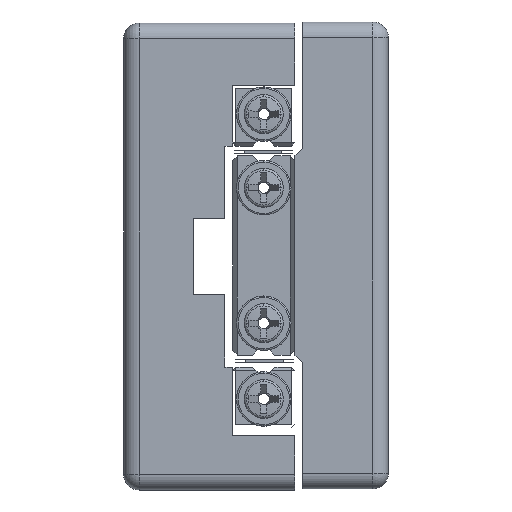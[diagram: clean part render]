
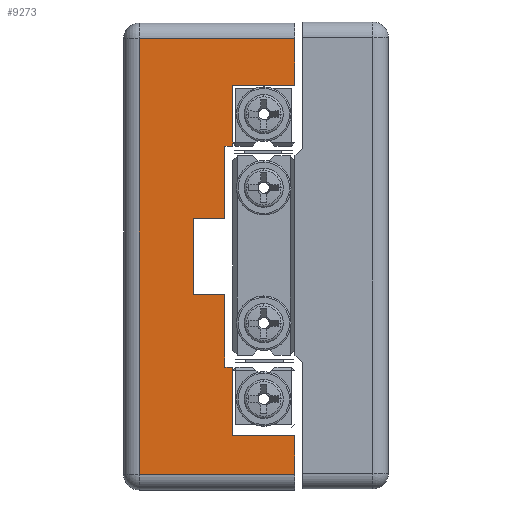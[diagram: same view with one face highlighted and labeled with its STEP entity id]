
A CAD part, left-side view. The second image highlights one B-rep face of the part: STEP entity #9273.
In plain terms, the highlighted planar face has unit normal (-1, 0, 0).
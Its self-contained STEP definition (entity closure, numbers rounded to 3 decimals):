
#3351 = EDGE_LOOP ( 'NONE', ( #6124, #5982, #21575, #21554, #6179, #6188, #6231, #21497, #6165, #21579, #21520, #6147, #6041, #5962, #6016, #21583 ) ) ;
#3989 = CARTESIAN_POINT ( 'NONE',  ( -12.659, 4.318, 2.38 ) ) ;
#4023 = CARTESIAN_POINT ( 'NONE',  ( -12.659, -2.182, -14.07 ) ) ;
#4149 = CARTESIAN_POINT ( 'NONE',  ( -12.659, 1.818, -7.17 ) ) ;
#4150 = CARTESIAN_POINT ( 'NONE',  ( -12.659, 1.818, 10.93 ) ) ;
#4154 = CARTESIAN_POINT ( 'NONE',  ( -12.659, -2.182, -11.57 ) ) ;
#4183 = CARTESIAN_POINT ( 'NONE',  ( -12.659, 2.318, 7.03 ) ) ;
#4203 = CARTESIAN_POINT ( 'NONE',  ( -12.659, -2.182, 13.93 ) ) ;
#4260 = CARTESIAN_POINT ( 'NONE',  ( -12.659, 7.818, -14.07 ) ) ;
#4275 = CARTESIAN_POINT ( 'NONE',  ( -12.659, 2.318, -7.17 ) ) ;
#4277 = CARTESIAN_POINT ( 'NONE',  ( -12.659, 2.318, 2.38 ) ) ;
#4356 = CARTESIAN_POINT ( 'NONE',  ( -12.659, 1.818, -11.57 ) ) ;
#4385 = CARTESIAN_POINT ( 'NONE',  ( -12.659, 4.318, -2.52 ) ) ;
#4515 = CARTESIAN_POINT ( 'NONE',  ( -12.659, -2.182, 10.93 ) ) ;
#4540 = CARTESIAN_POINT ( 'NONE',  ( -12.659, 2.318, -2.52 ) ) ;
#4548 = CARTESIAN_POINT ( 'NONE',  ( -12.659, 1.818, 7.03 ) ) ;
#4639 = CARTESIAN_POINT ( 'NONE',  ( -12.659, 7.818, 13.93 ) ) ;
#5962 = ORIENTED_EDGE ( 'NONE', *, *, #23900, .F. ) ;
#5982 = ORIENTED_EDGE ( 'NONE', *, *, #23838, .T. ) ;
#6016 = ORIENTED_EDGE ( 'NONE', *, *, #23946, .T. ) ;
#6041 = ORIENTED_EDGE ( 'NONE', *, *, #23830, .F. ) ;
#6124 = ORIENTED_EDGE ( 'NONE', *, *, #24925, .T. ) ;
#6147 = ORIENTED_EDGE ( 'NONE', *, *, #23819, .F. ) ;
#6165 = ORIENTED_EDGE ( 'NONE', *, *, #22554, .F. ) ;
#6179 = ORIENTED_EDGE ( 'NONE', *, *, #23874, .F. ) ;
#6188 = ORIENTED_EDGE ( 'NONE', *, *, #24577, .F. ) ;
#6231 = ORIENTED_EDGE ( 'NONE', *, *, #22551, .F. ) ;
#6439 = AXIS2_PLACEMENT_3D ( 'NONE', #20516, #20412, #20417 ) ;
#9273 = ADVANCED_FACE ( 'NONE', ( #18828 ), #20533, .F. ) ;
#10044 = DIRECTION ( 'NONE',  ( 0., 0., -1. ) ) ;
#10051 = CARTESIAN_POINT ( 'NONE',  ( -12.659, 7.818, -15.07 ) ) ;
#13199 = CARTESIAN_POINT ( 'NONE',  ( -12.659, 4.318, -2.52 ) ) ;
#13305 = DIRECTION ( 'NONE',  ( 0., 0., -1. ) ) ;
#13565 = DIRECTION ( 'NONE',  ( 0., 0., -1. ) ) ;
#13583 = CARTESIAN_POINT ( 'NONE',  ( -12.659, 2.318, -7.17 ) ) ;
#14266 = LINE ( 'NONE', #13583, #14270 ) ;
#14270 = VECTOR ( 'NONE', #13305, 1000. ) ;
#14272 = LINE ( 'NONE', #13199, #14274 ) ;
#14274 = VECTOR ( 'NONE', #13565, 1000. ) ;
#14658 = LINE ( 'NONE', #22766, #14660 ) ;
#14660 = VECTOR ( 'NONE', #22767, 1000. ) ;
#14664 = LINE ( 'NONE', #22785, #14672 ) ;
#14672 = VECTOR ( 'NONE', #22790, 1000. ) ;
#14674 = LINE ( 'NONE', #22812, #14690 ) ;
#14690 = VECTOR ( 'NONE', #22817, 1000. ) ;
#14729 = LINE ( 'NONE', #22911, #14736 ) ;
#14736 = VECTOR ( 'NONE', #22912, 1000. ) ;
#14754 = LINE ( 'NONE', #22935, #14757 ) ;
#14757 = VECTOR ( 'NONE', #22937, 1000. ) ;
#14769 = LINE ( 'NONE', #22951, #14772 ) ;
#14772 = VECTOR ( 'NONE', #22953, 1000. ) ;
#14790 = LINE ( 'NONE', #22979, #14793 ) ;
#14793 = VECTOR ( 'NONE', #22981, 1000. ) ;
#14832 = LINE ( 'NONE', #23048, #14835 ) ;
#14835 = VECTOR ( 'NONE', #23049, 1000. ) ;
#14870 = LINE ( 'NONE', #23139, #14873 ) ;
#14873 = VECTOR ( 'NONE', #23141, 1000. ) ;
#14878 = LINE ( 'NONE', #23147, #14881 ) ;
#14881 = VECTOR ( 'NONE', #23148, 1000. ) ;
#14906 = LINE ( 'NONE', #23221, #14908 ) ;
#14908 = VECTOR ( 'NONE', #23222, 1000. ) ;
#18828 = FACE_OUTER_BOUND ( 'NONE', #3351, .T. ) ;
#20412 = DIRECTION ( 'NONE',  ( 1., 0., 0. ) ) ;
#20417 = DIRECTION ( 'NONE',  ( 0., 0., -1. ) ) ;
#20516 = CARTESIAN_POINT ( 'NONE',  ( -12.659, 8.818, -15.07 ) ) ;
#20533 = PLANE ( 'NONE',  #6439 ) ;
#21497 = ORIENTED_EDGE ( 'NONE', *, *, #23775, .F. ) ;
#21520 = ORIENTED_EDGE ( 'NONE', *, *, #23793, .F. ) ;
#21554 = ORIENTED_EDGE ( 'NONE', *, *, #23850, .F. ) ;
#21575 = ORIENTED_EDGE ( 'NONE', *, *, #24337, .T. ) ;
#21579 = ORIENTED_EDGE ( 'NONE', *, *, #23782, .F. ) ;
#21583 = ORIENTED_EDGE ( 'NONE', *, *, #23908, .T. ) ;
#22551 = EDGE_CURVE ( 'NONE', #30132, #29973, #14266, .T. ) ;
#22554 = EDGE_CURVE ( 'NONE', #29799, #30039, #14272, .T. ) ;
#22766 = CARTESIAN_POINT ( 'NONE',  ( -12.659, 2.318, -2.52 ) ) ;
#22767 = DIRECTION ( 'NONE',  ( 0., -1., 0. ) ) ;
#22785 = CARTESIAN_POINT ( 'NONE',  ( -12.659, 4.318, 2.38 ) ) ;
#22790 = DIRECTION ( 'NONE',  ( 0., 1., 0. ) ) ;
#22812 = CARTESIAN_POINT ( 'NONE',  ( -12.659, 2.318, 2.38 ) ) ;
#22817 = DIRECTION ( 'NONE',  ( 0., 0., -1. ) ) ;
#22911 = CARTESIAN_POINT ( 'NONE',  ( -12.659, 2.318, 7.03 ) ) ;
#22912 = DIRECTION ( 'NONE',  ( 0., 1., 0. ) ) ;
#22935 = CARTESIAN_POINT ( 'NONE',  ( -12.659, 1.818, 7.03 ) ) ;
#22937 = DIRECTION ( 'NONE',  ( 0., 0., -1. ) ) ;
#22951 = CARTESIAN_POINT ( 'NONE',  ( -12.659, 8.818, -14.07 ) ) ;
#22953 = DIRECTION ( 'NONE',  ( 0., -1., 0. ) ) ;
#22979 = CARTESIAN_POINT ( 'NONE',  ( -12.659, 1.818, -11.57 ) ) ;
#22981 = DIRECTION ( 'NONE',  ( 0., -1., 0. ) ) ;
#23048 = CARTESIAN_POINT ( 'NONE',  ( -12.659, 1.818, -11.57 ) ) ;
#23049 = DIRECTION ( 'NONE',  ( 0., 0., -1. ) ) ;
#23139 = CARTESIAN_POINT ( 'NONE',  ( -12.659, 1.818, 10.93 ) ) ;
#23141 = DIRECTION ( 'NONE',  ( 0., 1., 0. ) ) ;
#23147 = CARTESIAN_POINT ( 'NONE',  ( -12.659, 8.818, 13.93 ) ) ;
#23148 = DIRECTION ( 'NONE',  ( 0., 1., 0. ) ) ;
#23221 = CARTESIAN_POINT ( 'NONE',  ( -12.659, -2.182, -15.07 ) ) ;
#23222 = DIRECTION ( 'NONE',  ( 0., 0., 1. ) ) ;
#23775 = EDGE_CURVE ( 'NONE', #30039, #30132, #14658, .T. ) ;
#23782 = EDGE_CURVE ( 'NONE', #29974, #29799, #14664, .T. ) ;
#23793 = EDGE_CURVE ( 'NONE', #29918, #29974, #14674, .T. ) ;
#23819 = EDGE_CURVE ( 'NONE', #30136, #29918, #14729, .T. ) ;
#23830 = EDGE_CURVE ( 'NONE', #29896, #30136, #14754, .T. ) ;
#23838 = EDGE_CURVE ( 'NONE', #29965, #29821, #14769, .T. ) ;
#23850 = EDGE_CURVE ( 'NONE', #30022, #29899, #14790, .T. ) ;
#23874 = EDGE_CURVE ( 'NONE', #29895, #30022, #14832, .T. ) ;
#23900 = EDGE_CURVE ( 'NONE', #30116, #29896, #14870, .T. ) ;
#23908 = EDGE_CURVE ( 'NONE', #29931, #30192, #14878, .T. ) ;
#23946 = EDGE_CURVE ( 'NONE', #30116, #29931, #14906, .T. ) ;
#24337 = EDGE_CURVE ( 'NONE', #29821, #29899, #25146, .T. ) ;
#24577 = EDGE_CURVE ( 'NONE', #29973, #29895, #25283, .T. ) ;
#24925 = EDGE_CURVE ( 'NONE', #30192, #29965, #25331, .T. ) ;
#25146 = LINE ( 'NONE', #28038, #25149 ) ;
#25149 = VECTOR ( 'NONE', #28040, 1000. ) ;
#25283 = LINE ( 'NONE', #28455, #25287 ) ;
#25287 = VECTOR ( 'NONE', #28477, 1000. ) ;
#25329 = VECTOR ( 'NONE', #10044, 1000. ) ;
#25331 = LINE ( 'NONE', #10051, #25329 ) ;
#28038 = CARTESIAN_POINT ( 'NONE',  ( -12.659, -2.182, -15.07 ) ) ;
#28040 = DIRECTION ( 'NONE',  ( 0., 0., 1. ) ) ;
#28455 = CARTESIAN_POINT ( 'NONE',  ( -12.659, 1.818, -7.17 ) ) ;
#28477 = DIRECTION ( 'NONE',  ( 0., -1., 0. ) ) ;
#29799 = VERTEX_POINT ( 'NONE', #3989 ) ;
#29821 = VERTEX_POINT ( 'NONE', #4023 ) ;
#29895 = VERTEX_POINT ( 'NONE', #4149 ) ;
#29896 = VERTEX_POINT ( 'NONE', #4150 ) ;
#29899 = VERTEX_POINT ( 'NONE', #4154 ) ;
#29918 = VERTEX_POINT ( 'NONE', #4183 ) ;
#29931 = VERTEX_POINT ( 'NONE', #4203 ) ;
#29965 = VERTEX_POINT ( 'NONE', #4260 ) ;
#29973 = VERTEX_POINT ( 'NONE', #4275 ) ;
#29974 = VERTEX_POINT ( 'NONE', #4277 ) ;
#30022 = VERTEX_POINT ( 'NONE', #4356 ) ;
#30039 = VERTEX_POINT ( 'NONE', #4385 ) ;
#30116 = VERTEX_POINT ( 'NONE', #4515 ) ;
#30132 = VERTEX_POINT ( 'NONE', #4540 ) ;
#30136 = VERTEX_POINT ( 'NONE', #4548 ) ;
#30192 = VERTEX_POINT ( 'NONE', #4639 ) ;
